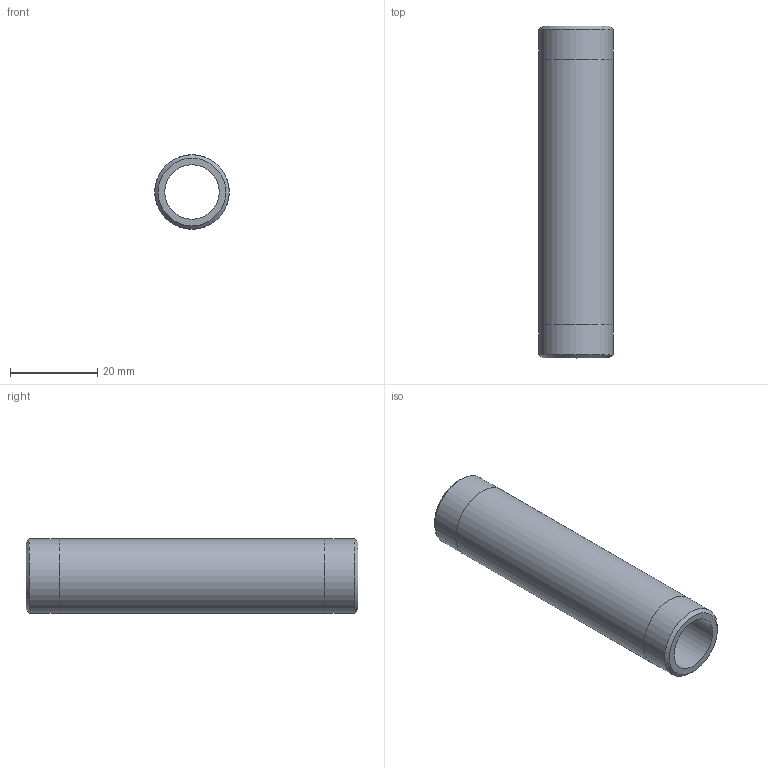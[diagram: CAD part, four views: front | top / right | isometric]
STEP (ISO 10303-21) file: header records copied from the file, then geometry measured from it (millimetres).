
FILE_DESCRIPTION(/* description */ (''),/* implementation_level */ '2;1');
FILE_NAME(/* name */ 'C:/Users/drich/Desktop/SSPN38-3 v1.step',/* time_stamp */ '2020-01-04T13:57:01-06:00',/* author */ (''),/* organization */ (''),/* preprocessor_version */ 'ST-DEVELOPER v18',/* originating_system */ 'Autodesk Translation Framework v8.12.0.6',/* authorisation */ '');
FILE_SCHEMA (('AUTOMOTIVE_DESIGN { 1 0 10303 214 3 1 1 }'));
Length unit declared in the file: inch
Products named in the file (1): SSPN38-3
Bounding box: 17.14 x 76.2 x 17.14 mm (x, y, z)
Volume: 8156.7 mm3; surface area: 7265.6 mm2
Topology: 1 solids, 1 shells, 10 faces, 24 edges, 18 vertices
Faces by surface type: cylinder 4, plane 4, cone 2
Full cylindrical faces by diameter (mm): 12.522 x1, 17.094 x2, 17.145 x1
Entity records: 353 total; most frequent: DIRECTION 64, CARTESIAN_POINT 53, ORIENTED_EDGE 48, AXIS2_PLACEMENT_3D 29, EDGE_CURVE 24, CIRCLE 18, VERTEX_POINT 18, EDGE_LOOP 14
